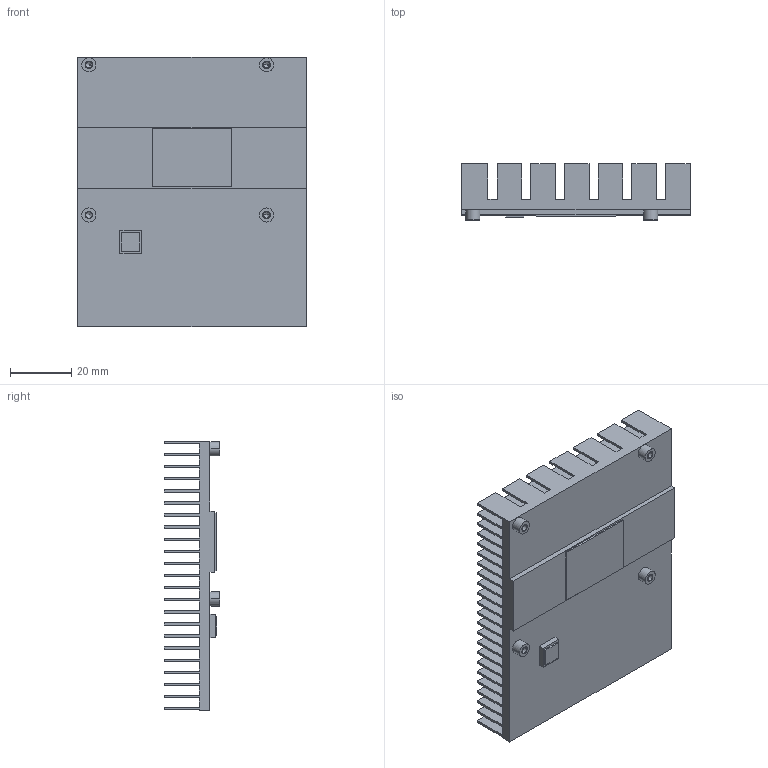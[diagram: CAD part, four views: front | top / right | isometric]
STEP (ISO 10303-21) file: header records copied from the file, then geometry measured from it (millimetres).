
FILE_DESCRIPTION((''),'2;1');
FILE_NAME('HEATSINK-ALL-9W-ING','2017-02-24T',('user'),(''),'PRO/ENGINEER BY PARAMETRIC TECHNOLOGY CORPORATION, 2012480','PRO/ENGINEER BY PARAMETRIC TECHNOLOGY CORPORATION, 2012480','');
FILE_SCHEMA(('CONFIG_CONTROL_DESIGN'));
Length unit declared in the file: millimetre
Products named in the file (1): HEATSINK-ALL-9W-ING
Bounding box: 74.5 x 18.25 x 88 mm (x, y, z)
Volume: 37823.1 mm3; surface area: 47966.3 mm2
Topology: 1 solids, 5 shells, 817 faces, 2082 edges, 1384 vertices
Faces by surface type: plane 785, cylinder 24, cone 8
Entity records: 24171 total; most frequent: CARTESIAN_POINT 4276, ORIENTED_EDGE 4132, DIRECTION 3766, EDGE_CURVE 2074, VECTOR 2018, LINE 2018, VERTEX_POINT 1384, EDGE_LOOP 942
